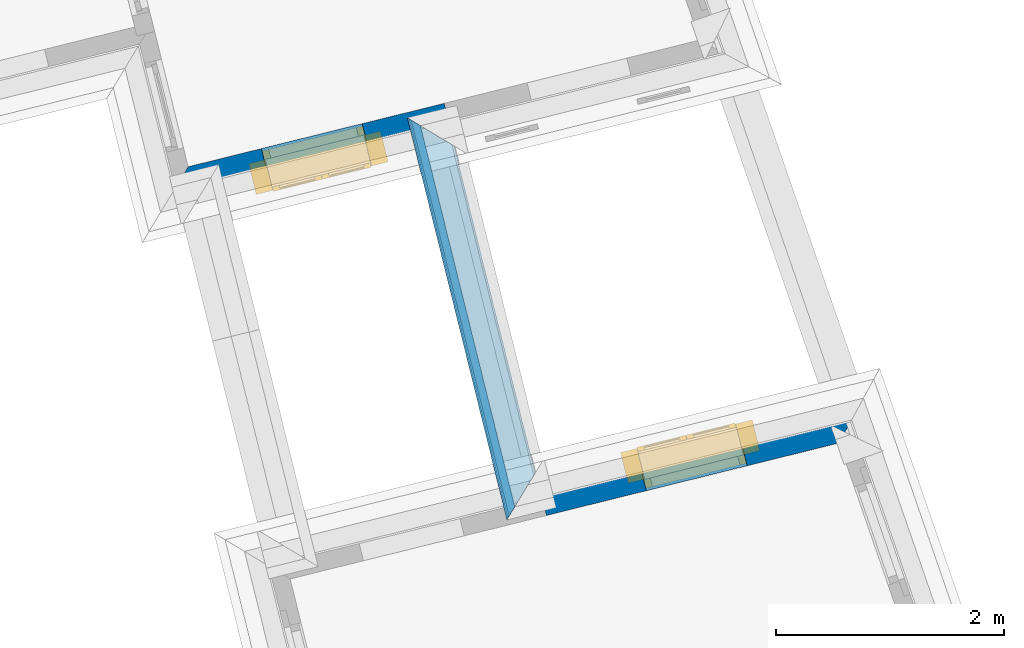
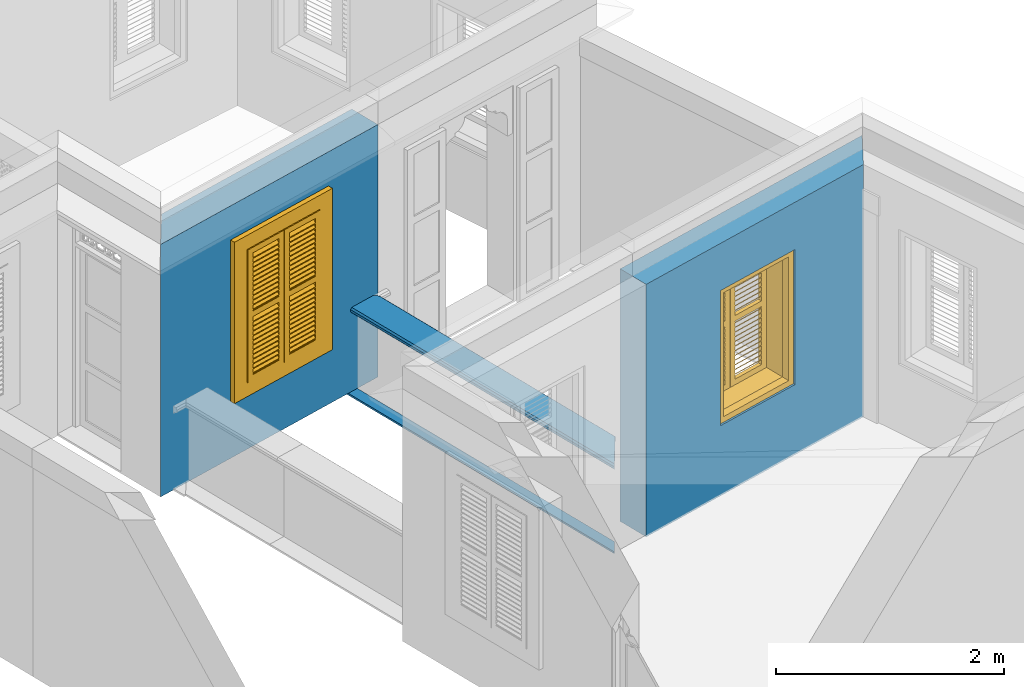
# One storey, part 5 of 15: 4 walls, 2 windows, 2 openings.
"""IFC4 building model written with IfcOpenShell, lengths in metres."""

from ifc_helpers import new_model, si_unit, frame, origin, origin_with_axes, place, context, subcontext, project, spatial, polyline, outline, extrude, clip, halfspace, faceted_brep, source, transform, mapped, material, layer, layer_set, layer_usage, material_profile, profile_set, profile_usage, type_object, type_shapes, element, fill, save


model = new_model("IFC4")

# Units and contexts
model_context = context("Model", 3, world=origin_with_axes())
body_context = subcontext(model_context, "Body", "Model", "MODEL_VIEW")
ifc_project = project(units=[si_unit("PLANEANGLEUNIT", "RADIAN"), si_unit("MASSUNIT", "GRAM", prefix="KILO"), si_unit("FORCEUNIT", "NEWTON", prefix="KILO"), si_unit("LENGTHUNIT", "METRE"), si_unit("AREAUNIT", "SQUARE_METRE"), si_unit("VOLUMEUNIT", "CUBIC_METRE")], contexts=[model_context, model_context])

# Site, building, storey
site_placement = place(None, origin_with_axes())
site = spatial("IfcSite", under=ifc_project, at=site_placement, Name="Site plot-5", CompositionType="ELEMENT")
building_placement = place(None, origin_with_axes())
building = spatial("IfcBuilding", under=site, at=building_placement, Name="Building plot-5", CompositionType="ELEMENT")
storey_placement = place(None, frame((0.0, 0.0, 3.45), z_axis=(0.0, 0.0, 1.0), x_axis=(1.0, 0.0, 0.0)))
storey = spatial("IfcBuildingStorey", under=building, at=storey_placement, Name="plot-5 1", CompositionType="ELEMENT", Elevation=3.45)

# Wall, opening, window
ifc_material = material(Name="Masonry")
ifc_layer = layer(ifc_material, 0.33, ventilated=False)
ifc_layer_set = layer_set([ifc_layer], Name="exterior_0.08_0.25")
ifc_layer_usage = layer_usage(ifc_layer_set, "AXIS2", "POSITIVE", -0.25)
wall_type_1 = type_object("IfcWallType", Name="exterior_0.08_0.25", PredefinedType="SOLIDWALL", material=ifc_layer_set)
wall_1_placement = place(storey_placement, frame((18.1389410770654, 27.4400168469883, 0.0), z_axis=(0.0, 0.0, 1.0), x_axis=(0.970711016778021, 0.240250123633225, 0.0)))
wall_1 = element("IfcWall", 1, at=wall_1_placement, inside=storey, type_object=wall_type_1, material=ifc_layer_usage, Name="exterior", context=body_context, shape_type="SweptSolid", body=[
    extrude(outline(polyline([(0.080000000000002, 0.0799999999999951), (-0.250000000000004, -0.250000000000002), (2.39219145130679, -0.250000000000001), (2.39219145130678, 0.0800000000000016), (0.080000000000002, 0.0799999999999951)])), origin_with_axes(), (0.0, 0.0, 1.0), 2.7),
])
opening_1_placement = place(wall_1_placement, frame((0.741095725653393, 0.0, 0.75)))
opening_1 = element("IfcOpeningElement", 2, at=opening_1_placement, cuts=wall_1, Name="My Opening", ObjectType="Opening", context=body_context, shape_type="SweptSolid", body=[
    extrude(outline(polyline([(0.0, -0.269999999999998), (0.909999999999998, -0.27), (0.910000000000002, 1.1), (3.77475828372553e-15, 1.1), (0.0, -0.269999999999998)])), origin_with_axes(), (0.0, 0.0, 1.0), 1.445),
])
window_type = type_object("IfcWindowType", Name="shuttered_shorter", PartitioningType="DOUBLE_PANEL_HORIZONTAL", PredefinedType="NOTDEFINED")
shared_shape = source(origin(), body_context, "Body", "Brep", [
    faceted_brep([(0.393, 0.0, 0.622), (0.074, 0.0, 0.622), (0.074, 0.0, 0.632), (0.393, 0.0, 0.632), (0.074, -0.04, 0.592), (0.393, -0.04, 0.592), (0.393, -0.04, 0.582), (0.074, -0.04, 0.582), (0.517, 0.0, 0.682), (0.836, 0.0, 0.682), (0.836, 0.0, 0.672), (0.517, 0.0, 0.672), (0.517, -0.04, 0.642), (0.836, -0.04, 0.642), (0.836, -0.04, 0.632), (0.517, -0.04, 0.632), (0.517, 0.0, 0.632), (0.836, 0.0, 0.632), (0.836, 0.0, 0.622), (0.517, 0.0, 0.622), (0.517, -0.04, 0.592), (0.836, -0.04, 0.592), (0.836, -0.04, 0.582), (0.517, -0.04, 0.582), (0.517, 0.0, 0.232), (0.836, 0.0, 0.232), (0.836, 0.0, 0.222), (0.517, 0.0, 0.222), (0.517, -0.04, 0.192), (0.836, -0.04, 0.192), (0.836, -0.04, 0.182), (0.517, -0.04, 0.182), (0.517, 0.0, 0.532), (0.836, 0.0, 0.532), (0.836, 0.0, 0.522), (0.517, 0.0, 0.522), (0.517, -0.04, 0.492), (0.836, -0.04, 0.492), (0.836, -0.04, 0.482), (0.517, -0.04, 0.482), (0.517, 0.0, 0.482), (0.836, 0.0, 0.482), (0.836, 0.0, 0.472), (0.517, 0.0, 0.472), (0.517, -0.04, 0.442), (0.836, -0.04, 0.442), (0.836, -0.04, 0.432), (0.517, -0.04, 0.432), (0.517, 0.0, 0.582), (0.836, 0.0, 0.582), (0.836, 0.0, 0.572), (0.517, 0.0, 0.572), (0.517, -0.04, 0.542), (0.836, -0.04, 0.542), (0.836, -0.04, 0.532), (0.517, -0.04, 0.532), (0.517, 0.0, 0.182), (0.836, 0.0, 0.182), (0.836, 0.0, 0.172), (0.517, 0.0, 0.172), (0.517, -0.04, 0.142), (0.836, -0.04, 0.142), (0.836, -0.04, 0.132), (0.517, -0.04, 0.132), (0.517, 0.0, 0.382), (0.836, 0.0, 0.382), (0.836, 0.0, 0.372), (0.517, 0.0, 0.372), (0.517, -0.04, 0.342), (0.836, -0.04, 0.342), (0.836, -0.04, 0.332), (0.517, -0.04, 0.332), (0.517, 0.0, 0.432), (0.836, 0.0, 0.432), (0.836, 0.0, 0.422), (0.517, 0.0, 0.422), (0.517, -0.04, 0.392), (0.836, -0.04, 0.392), (0.836, -0.04, 0.382), (0.517, -0.04, 0.382), (0.517, 0.0, 0.132), (0.836, 0.0, 0.132), (0.836, 0.0, 0.122), (0.517, 0.0, 0.122), (0.517, -0.04, 0.092), (0.836, -0.04, 0.092), (0.836, -0.04, 0.082), (0.517, -0.04, 0.082), (0.517, 0.0, 0.282), (0.836, 0.0, 0.282), (0.836, 0.0, 0.272), (0.517, 0.0, 0.272), (0.517, -0.04, 0.242), (0.836, -0.04, 0.242), (0.836, -0.04, 0.232), (0.517, -0.04, 0.232), (0.517, 0.0, 0.332), (0.836, 0.0, 0.332), (0.836, 0.0, 0.322), (0.517, 0.0, 0.322), (0.517, -0.04, 0.292), (0.836, -0.04, 0.292), (0.836, -0.04, 0.282), (0.517, -0.04, 0.282), (0.517, 0.0, 1.362667), (0.836, 0.0, 1.362667), (0.836, 0.0, 1.352667), (0.517, 0.0, 1.352667), (0.517, -0.04, 1.322667), (0.836, -0.04, 1.322667), (0.836, -0.04, 1.312667), (0.517, -0.04, 1.312667), (0.517, 0.0, 1.312667), (0.836, 0.0, 1.312667), (0.836, 0.0, 1.302667), (0.517, 0.0, 1.302667), (0.517, -0.04, 1.272667), (0.836, -0.04, 1.272667), (0.836, -0.04, 1.262667), (0.517, -0.04, 1.262667), (0.517, 0.0, 0.912667), (0.836, 0.0, 0.912667), (0.836, 0.0, 0.902667), (0.517, 0.0, 0.902667), (0.517, -0.04, 0.872667), (0.836, -0.04, 0.872667), (0.836, -0.04, 0.862667), (0.517, -0.04, 0.862667), (0.517, 0.0, 1.212667), (0.836, 0.0, 1.212667), (0.836, 0.0, 1.202667), (0.517, 0.0, 1.202667), (0.517, -0.04, 1.172667), (0.836, -0.04, 1.172667), (0.836, -0.04, 1.162667), (0.517, -0.04, 1.162667), (0.517, 0.0, 1.162667), (0.836, 0.0, 1.162667), (0.836, 0.0, 1.152667), (0.517, 0.0, 1.152667), (0.517, -0.04, 1.122667), (0.836, -0.04, 1.122667), (0.836, -0.04, 1.112667), (0.517, -0.04, 1.112667), (0.517, 0.0, 1.262667), (0.836, 0.0, 1.262667), (0.836, 0.0, 1.252667), (0.517, 0.0, 1.252667), (0.517, -0.04, 1.222667), (0.836, -0.04, 1.222667), (0.836, -0.04, 1.212667), (0.517, -0.04, 1.212667), (0.517, 0.0, 0.862667), (0.836, 0.0, 0.862667), (0.836, 0.0, 0.852667), (0.517, 0.0, 0.852667), (0.517, -0.04, 0.822667), (0.836, -0.04, 0.822667), (0.836, -0.04, 0.812667), (0.517, -0.04, 0.812667), (0.517, 0.0, 1.062667), (0.836, 0.0, 1.062667), (0.836, 0.0, 1.052667), (0.517, 0.0, 1.052667), (0.517, -0.04, 1.022667), (0.836, -0.04, 1.022667), (0.836, -0.04, 1.012667), (0.517, -0.04, 1.012667), (0.517, 0.0, 1.112667), (0.836, 0.0, 1.112667), (0.836, 0.0, 1.102667), (0.517, 0.0, 1.102667), (0.517, -0.04, 1.072667), (0.836, -0.04, 1.072667), (0.836, -0.04, 1.062667), (0.517, -0.04, 1.062667), (0.517, 0.0, 0.812667), (0.836, 0.0, 0.812667), (0.836, 0.0, 0.802667), (0.517, 0.0, 0.802667), (0.517, -0.04, 0.772667), (0.836, -0.04, 0.772667), (0.836, -0.04, 0.762667), (0.517, -0.04, 0.762667), (0.517, 0.0, 0.962667), (0.836, 0.0, 0.962667), (0.836, 0.0, 0.952667), (0.517, 0.0, 0.952667), (0.517, -0.04, 0.922667), (0.836, -0.04, 0.922667), (0.836, -0.04, 0.912667), (0.517, -0.04, 0.912667), (0.517, 0.0, 1.012667), (0.836, 0.0, 1.012667), (0.836, 0.0, 1.002667), (0.517, 0.0, 1.002667), (0.517, -0.04, 0.972667), (0.836, -0.04, 0.972667), (0.836, -0.04, 0.962667), (0.517, -0.04, 0.962667), (0.074, 0.0, 0.682), (0.393, 0.0, 0.682), (0.393, 0.0, 0.672), (0.074, 0.0, 0.672), (0.074, -0.04, 0.642), (0.393, -0.04, 0.642), (0.393, -0.04, 0.632), (0.074, -0.04, 0.632), (0.074, 0.0, 0.232), (0.393, 0.0, 0.232), (0.393, 0.0, 0.222), (0.074, 0.0, 0.222), (0.074, -0.04, 0.192), (0.393, -0.04, 0.192), (0.393, -0.04, 0.182), (0.074, -0.04, 0.182), (0.074, 0.0, 0.532), (0.393, 0.0, 0.532), (0.393, 0.0, 0.522), (0.074, 0.0, 0.522), (0.074, -0.04, 0.492), (0.393, -0.04, 0.492), (0.393, -0.04, 0.482), (0.074, -0.04, 0.482), (0.074, 0.0, 0.482), (0.393, 0.0, 0.482), (0.393, 0.0, 0.472), (0.074, 0.0, 0.472), (0.074, -0.04, 0.442), (0.393, -0.04, 0.442), (0.393, -0.04, 0.432), (0.074, -0.04, 0.432), (0.074, 0.0, 0.582), (0.393, 0.0, 0.582), (0.393, 0.0, 0.572), (0.074, 0.0, 0.572), (0.074, -0.04, 0.542), (0.393, -0.04, 0.542), (0.393, -0.04, 0.532), (0.074, -0.04, 0.532), (0.074, 0.0, 0.182), (0.393, 0.0, 0.182), (0.393, 0.0, 0.172), (0.074, 0.0, 0.172), (0.074, -0.04, 0.142), (0.393, -0.04, 0.142), (0.393, -0.04, 0.132), (0.074, -0.04, 0.132), (0.074, 0.0, 0.382), (0.393, 0.0, 0.382), (0.393, 0.0, 0.372), (0.074, 0.0, 0.372), (0.074, -0.04, 0.342), (0.393, -0.04, 0.342), (0.393, -0.04, 0.332), (0.074, -0.04, 0.332), (0.074, 0.0, 0.432), (0.393, 0.0, 0.432), (0.393, 0.0, 0.422), (0.074, 0.0, 0.422), (0.074, -0.04, 0.392), (0.393, -0.04, 0.392), (0.393, -0.04, 0.382), (0.074, -0.04, 0.382), (0.074, 0.0, 0.132), (0.393, 0.0, 0.132), (0.393, 0.0, 0.122), (0.074, 0.0, 0.122), (0.074, -0.04, 0.092), (0.393, -0.04, 0.092), (0.393, -0.04, 0.082), (0.074, -0.04, 0.082), (0.074, 0.0, 0.282), (0.393, 0.0, 0.282), (0.393, 0.0, 0.272), (0.074, 0.0, 0.272), (0.074, -0.04, 0.242), (0.393, -0.04, 0.242), (0.393, -0.04, 0.232), (0.074, -0.04, 0.232), (0.074, 0.0, 0.332), (0.393, 0.0, 0.332), (0.393, 0.0, 0.322), (0.074, 0.0, 0.322), (0.074, -0.04, 0.292), (0.393, -0.04, 0.292), (0.393, -0.04, 0.282), (0.074, -0.04, 0.282), (0.074, 0.0, 1.362667), (0.393, 0.0, 1.362667), (0.393, 0.0, 1.352667), (0.074, 0.0, 1.352667), (0.074, -0.04, 1.322667), (0.393, -0.04, 1.322667), (0.393, -0.04, 1.312667), (0.074, -0.04, 1.312667), (0.074, 0.0, 1.312667), (0.393, 0.0, 1.312667), (0.393, 0.0, 1.302667), (0.074, 0.0, 1.302667), (0.074, -0.04, 1.272667), (0.393, -0.04, 1.272667), (0.393, -0.04, 1.262667), (0.074, -0.04, 1.262667), (0.074, 0.0, 0.912667), (0.393, 0.0, 0.912667), (0.393, 0.0, 0.902667), (0.074, 0.0, 0.902667), (0.074, -0.04, 0.872667), (0.393, -0.04, 0.872667), (0.393, -0.04, 0.862667), (0.074, -0.04, 0.862667), (0.074, 0.0, 1.212667), (0.393, 0.0, 1.212667), (0.393, 0.0, 1.202667), (0.074, 0.0, 1.202667), (0.074, -0.04, 1.172667), (0.393, -0.04, 1.172667), (0.393, -0.04, 1.162667), (0.074, -0.04, 1.162667), (0.074, 0.0, 1.162667), (0.393, 0.0, 1.162667), (0.393, 0.0, 1.152667), (0.074, 0.0, 1.152667), (0.074, -0.04, 1.122667), (0.393, -0.04, 1.122667), (0.393, -0.04, 1.112667), (0.074, -0.04, 1.112667), (0.074, 0.0, 1.262667), (0.393, 0.0, 1.262667), (0.393, 0.0, 1.252667), (0.074, 0.0, 1.252667), (0.074, -0.04, 1.222667), (0.393, -0.04, 1.222667), (0.393, -0.04, 1.212667), (0.074, -0.04, 1.212667), (0.074, 0.0, 0.862667), (0.393, 0.0, 0.862667), (0.393, 0.0, 0.852667), (0.074, 0.0, 0.852667), (0.074, -0.04, 0.822667), (0.393, -0.04, 0.822667), (0.393, -0.04, 0.812667), (0.074, -0.04, 0.812667), (0.074, 0.0, 1.062667), (0.393, 0.0, 1.062667), (0.393, 0.0, 1.052667), (0.074, 0.0, 1.052667), (0.074, -0.04, 1.022667), (0.393, -0.04, 1.022667), (0.393, -0.04, 1.012667), (0.074, -0.04, 1.012667), (0.074, 0.0, 1.112667), (0.393, 0.0, 1.112667), (0.393, 0.0, 1.102667), (0.074, 0.0, 1.102667), (0.074, -0.04, 1.072667), (0.393, -0.04, 1.072667), (0.393, -0.04, 1.062667), (0.074, -0.04, 1.062667), (0.074, 0.0, 0.812667), (0.393, 0.0, 0.812667), (0.393, 0.0, 0.802667), (0.074, 0.0, 0.802667), (0.074, -0.04, 0.772667), (0.393, -0.04, 0.772667), (0.393, -0.04, 0.762667), (0.074, -0.04, 0.762667), (0.074, 0.0, 0.962667), (0.393, 0.0, 0.962667), (0.393, 0.0, 0.952667), (0.074, 0.0, 0.952667), (0.074, -0.04, 0.922667), (0.393, -0.04, 0.922667), (0.393, -0.04, 0.912667), (0.074, -0.04, 0.912667), (0.074, 0.0, 1.012667), (0.393, 0.0, 1.012667), (0.393, 0.0, 1.002667), (0.074, 0.0, 1.002667), (0.074, -0.04, 0.972667), (0.393, -0.04, 0.972667), (0.393, -0.04, 0.962667), (0.074, -0.04, 0.962667), (0.517, -0.04, 0.072), (0.457, -0.04, 0.012), (0.896, -0.04, 0.012), (0.836, -0.04, 0.072), (0.457, -0.04, 0.692667), (0.517, -0.04, 0.692667), (0.457, 0.0, 0.012), (0.896, 0.0, 0.012), (0.836, -0.04, 0.692667), (0.896, -0.04, 0.692667), (0.836, 0.0, 0.072), (0.517, 0.0, 0.072), (0.457, 0.0, 0.692667), (0.517, 0.0, 0.692667), (0.517, -0.04, 0.752666), (0.457, -0.04, 0.752666), (0.896, 0.0, 0.692667), (0.836, 0.0, 0.692667), (0.836, -0.04, 0.752666), (0.896, -0.04, 0.752666), (0.457, 0.0, 0.752666), (0.457, -0.04, 1.433333), (0.517, -0.04, 1.373333), (0.896, 0.0, 0.752666), (0.836, -0.04, 1.373333), (0.896, -0.04, 1.433333), (0.457, 0.0, 1.433333), (0.517, 0.0, 0.752666), (0.836, 0.0, 0.752666), (0.517, 0.0, 1.373333), (0.896, 0.0, 1.433333), (0.836, 0.0, 1.373333), (0.074, -0.04, 0.072), (0.014, -0.04, 0.012), (0.453, -0.04, 0.012), (0.393, -0.04, 0.072), (0.014, -0.04, 0.692667), (0.074, -0.04, 0.692667), (0.014, 0.0, 0.012), (0.453, 0.0, 0.012), (0.393, -0.04, 0.692667), (0.453, -0.04, 0.692667), (0.393, 0.0, 0.072), (0.074, 0.0, 0.072), (0.014, 0.0, 0.692667), (0.074, 0.0, 0.692667), (0.074, -0.04, 0.752666), (0.014, -0.04, 0.752666), (0.453, 0.0, 0.692667), (0.393, 0.0, 0.692667), (0.393, -0.04, 0.752666), (0.453, -0.04, 0.752666), (0.014, 0.0, 0.752666), (0.014, -0.04, 1.433333), (0.074, -0.04, 1.373333), (0.453, 0.0, 0.752666), (0.393, -0.04, 1.373333), (0.453, -0.04, 1.433333), (0.014, 0.0, 1.433333), (0.074, 0.0, 0.752666), (0.393, 0.0, 0.752666), (0.074, 0.0, 1.373333), (0.453, 0.0, 1.433333), (0.393, 0.0, 1.373333), (0.0, 0.33, 1.445), (0.91, 0.33, 1.445), (0.85, 0.33, 1.385), (0.06, 0.33, 1.385), (0.91, 0.25, 1.445), (0.0, 0.25, 1.445), (0.91, 0.25, 1.445), (0.85, 0.33, 0.06), (0.91, 0.33, 0.0), (0.85, 0.25, 1.385), (0.06, 0.25, 1.385), (0.0, 0.33, 0.0), (0.06, 0.33, 0.06), (0.0, 0.25, 0.0), (0.91, 0.25, 0.0), (0.85, 0.25, 0.06), (0.06, 0.25, 0.06), (1.05, 0.25, 1.585), (-0.14, 0.25, 1.585), (-0.14, -0.03, 1.585), (1.05, -0.03, 1.585), (0.9, -0.03, 1.435), (0.01, -0.03, 1.435), (0.01, 0.25, 1.435), (0.9, 0.25, 1.435), (0.9, 0.25, 0.01), (0.9, -0.03, 0.01), (1.05, -0.03, -0.14), (1.05, 0.25, -0.14), (0.01, -0.03, 0.01), (0.01, 0.25, 0.01), (-0.14, -0.03, -0.14), (-0.14, 0.25, -0.14)], [[[0, 1, 2, 3]], [[4, 5, 3, 2]], [[5, 6, 0, 3]], [[1, 0, 6, 7]], [[2, 1, 7, 4]], [[5, 4, 7, 6]], [[8, 9, 10, 11]], [[12, 13, 9, 8]], [[13, 14, 10, 9]], [[14, 15, 11, 10]], [[15, 12, 8, 11]], [[13, 12, 15, 14]], [[16, 17, 18, 19]], [[20, 21, 17, 16]], [[21, 22, 18, 17]], [[22, 23, 19, 18]], [[23, 20, 16, 19]], [[21, 20, 23, 22]], [[24, 25, 26, 27]], [[28, 29, 25, 24]], [[29, 30, 26, 25]], [[30, 31, 27, 26]], [[31, 28, 24, 27]], [[29, 28, 31, 30]], [[32, 33, 34, 35]], [[36, 37, 33, 32]], [[37, 38, 34, 33]], [[38, 39, 35, 34]], [[39, 36, 32, 35]], [[37, 36, 39, 38]], [[40, 41, 42, 43]], [[44, 45, 41, 40]], [[45, 46, 42, 41]], [[46, 47, 43, 42]], [[47, 44, 40, 43]], [[45, 44, 47, 46]], [[48, 49, 50, 51]], [[52, 53, 49, 48]], [[53, 54, 50, 49]], [[54, 55, 51, 50]], [[55, 52, 48, 51]], [[53, 52, 55, 54]], [[56, 57, 58, 59]], [[60, 61, 57, 56]], [[61, 62, 58, 57]], [[62, 63, 59, 58]], [[63, 60, 56, 59]], [[61, 60, 63, 62]], [[64, 65, 66, 67]], [[68, 69, 65, 64]], [[69, 70, 66, 65]], [[70, 71, 67, 66]], [[71, 68, 64, 67]], [[69, 68, 71, 70]], [[72, 73, 74, 75]], [[76, 77, 73, 72]], [[77, 78, 74, 73]], [[78, 79, 75, 74]], [[79, 76, 72, 75]], [[77, 76, 79, 78]], [[80, 81, 82, 83]], [[84, 85, 81, 80]], [[85, 86, 82, 81]], [[86, 87, 83, 82]], [[87, 84, 80, 83]], [[85, 84, 87, 86]], [[88, 89, 90, 91]], [[92, 93, 89, 88]], [[93, 94, 90, 89]], [[94, 95, 91, 90]], [[95, 92, 88, 91]], [[93, 92, 95, 94]], [[96, 97, 98, 99]], [[100, 101, 97, 96]], [[101, 102, 98, 97]], [[102, 103, 99, 98]], [[103, 100, 96, 99]], [[101, 100, 103, 102]], [[104, 105, 106, 107]], [[108, 109, 105, 104]], [[109, 110, 106, 105]], [[110, 111, 107, 106]], [[111, 108, 104, 107]], [[109, 108, 111, 110]], [[112, 113, 114, 115]], [[116, 117, 113, 112]], [[117, 118, 114, 113]], [[118, 119, 115, 114]], [[119, 116, 112, 115]], [[117, 116, 119, 118]], [[120, 121, 122, 123]], [[124, 125, 121, 120]], [[125, 126, 122, 121]], [[126, 127, 123, 122]], [[127, 124, 120, 123]], [[125, 124, 127, 126]], [[128, 129, 130, 131]], [[132, 133, 129, 128]], [[133, 134, 130, 129]], [[134, 135, 131, 130]], [[135, 132, 128, 131]], [[133, 132, 135, 134]], [[136, 137, 138, 139]], [[140, 141, 137, 136]], [[141, 142, 138, 137]], [[142, 143, 139, 138]], [[139, 143, 140, 136]], [[141, 140, 143, 142]], [[144, 145, 146, 147]], [[148, 149, 145, 144]], [[149, 150, 146, 145]], [[150, 151, 147, 146]], [[151, 148, 144, 147]], [[149, 148, 151, 150]], [[152, 153, 154, 155]], [[156, 157, 153, 152]], [[157, 158, 154, 153]], [[158, 159, 155, 154]], [[159, 156, 152, 155]], [[157, 156, 159, 158]], [[160, 161, 162, 163]], [[164, 165, 161, 160]], [[165, 166, 162, 161]], [[166, 167, 163, 162]], [[167, 164, 160, 163]], [[165, 164, 167, 166]], [[168, 169, 170, 171]], [[172, 173, 169, 168]], [[173, 174, 170, 169]], [[174, 175, 171, 170]], [[175, 172, 168, 171]], [[173, 172, 175, 174]], [[176, 177, 178, 179]], [[180, 181, 177, 176]], [[181, 182, 178, 177]], [[182, 183, 179, 178]], [[183, 180, 176, 179]], [[181, 180, 183, 182]], [[184, 185, 186, 187]], [[188, 189, 185, 184]], [[189, 190, 186, 185]], [[190, 191, 187, 186]], [[191, 188, 184, 187]], [[189, 188, 191, 190]], [[192, 193, 194, 195]], [[196, 197, 193, 192]], [[197, 198, 194, 193]], [[198, 199, 195, 194]], [[199, 196, 192, 195]], [[197, 196, 199, 198]], [[200, 201, 202, 203]], [[204, 205, 201, 200]], [[205, 206, 202, 201]], [[206, 207, 203, 202]], [[207, 204, 200, 203]], [[205, 204, 207, 206]], [[208, 209, 210, 211]], [[212, 213, 209, 208]], [[213, 214, 210, 209]], [[214, 215, 211, 210]], [[215, 212, 208, 211]], [[213, 212, 215, 214]], [[216, 217, 218, 219]], [[220, 221, 217, 216]], [[221, 222, 218, 217]], [[222, 223, 219, 218]], [[223, 220, 216, 219]], [[221, 220, 223, 222]], [[224, 225, 226, 227]], [[228, 229, 225, 224]], [[229, 230, 226, 225]], [[230, 231, 227, 226]], [[231, 228, 224, 227]], [[229, 228, 231, 230]], [[232, 233, 234, 235]], [[236, 237, 233, 232]], [[237, 238, 234, 233]], [[238, 239, 235, 234]], [[239, 236, 232, 235]], [[237, 236, 239, 238]], [[240, 241, 242, 243]], [[244, 245, 241, 240]], [[245, 246, 242, 241]], [[246, 247, 243, 242]], [[247, 244, 240, 243]], [[245, 244, 247, 246]], [[248, 249, 250, 251]], [[252, 253, 249, 248]], [[253, 254, 250, 249]], [[254, 255, 251, 250]], [[255, 252, 248, 251]], [[253, 252, 255, 254]], [[256, 257, 258, 259]], [[260, 261, 257, 256]], [[261, 262, 258, 257]], [[262, 263, 259, 258]], [[263, 260, 256, 259]], [[261, 260, 263, 262]], [[264, 265, 266, 267]], [[268, 269, 265, 264]], [[269, 270, 266, 265]], [[270, 271, 267, 266]], [[271, 268, 264, 267]], [[269, 268, 271, 270]], [[272, 273, 274, 275]], [[276, 277, 273, 272]], [[277, 278, 274, 273]], [[278, 279, 275, 274]], [[279, 276, 272, 275]], [[277, 276, 279, 278]], [[280, 281, 282, 283]], [[284, 285, 281, 280]], [[285, 286, 282, 281]], [[286, 287, 283, 282]], [[287, 284, 280, 283]], [[285, 284, 287, 286]], [[288, 289, 290, 291]], [[292, 293, 289, 288]], [[293, 294, 290, 289]], [[294, 295, 291, 290]], [[295, 292, 288, 291]], [[293, 292, 295, 294]], [[296, 297, 298, 299]], [[300, 301, 297, 296]], [[301, 302, 298, 297]], [[302, 303, 299, 298]], [[303, 300, 296, 299]], [[301, 300, 303, 302]], [[304, 305, 306, 307]], [[308, 309, 305, 304]], [[309, 310, 306, 305]], [[310, 311, 307, 306]], [[311, 308, 304, 307]], [[309, 308, 311, 310]], [[312, 313, 314, 315]], [[316, 317, 313, 312]], [[317, 318, 314, 313]], [[318, 319, 315, 314]], [[319, 316, 312, 315]], [[317, 316, 319, 318]], [[320, 321, 322, 323]], [[324, 325, 321, 320]], [[325, 326, 322, 321]], [[326, 327, 323, 322]], [[327, 324, 320, 323]], [[325, 324, 327, 326]], [[328, 329, 330, 331]], [[332, 333, 329, 328]], [[333, 334, 330, 329]], [[334, 335, 331, 330]], [[335, 332, 328, 331]], [[333, 332, 335, 334]], [[336, 337, 338, 339]], [[340, 341, 337, 336]], [[341, 342, 338, 337]], [[342, 343, 339, 338]], [[343, 340, 336, 339]], [[341, 340, 343, 342]], [[344, 345, 346, 347]], [[348, 349, 345, 344]], [[349, 350, 346, 345]], [[350, 351, 347, 346]], [[351, 348, 344, 347]], [[349, 348, 351, 350]], [[352, 353, 354, 355]], [[356, 357, 353, 352]], [[357, 358, 354, 353]], [[358, 359, 355, 354]], [[359, 356, 352, 355]], [[357, 356, 359, 358]], [[360, 361, 362, 363]], [[364, 365, 361, 360]], [[365, 366, 362, 361]], [[366, 367, 363, 362]], [[367, 364, 360, 363]], [[365, 364, 367, 366]], [[368, 369, 370, 371]], [[372, 373, 369, 368]], [[373, 374, 370, 369]], [[374, 375, 371, 370]], [[375, 372, 368, 371]], [[373, 372, 375, 374]], [[376, 377, 378, 379]], [[380, 381, 377, 376]], [[381, 382, 378, 377]], [[382, 383, 379, 378]], [[383, 380, 376, 379]], [[381, 380, 383, 382]], [[384, 385, 386, 387]], [[388, 385, 384, 389]], [[390, 391, 386, 385]], [[392, 387, 386, 393]], [[384, 387, 394, 395]], [[390, 385, 388, 396]], [[389, 384, 395, 397]], [[389, 398, 399, 388]], [[390, 395, 394, 391]], [[400, 393, 386, 391]], [[387, 392, 401, 394]], [[402, 392, 393, 403]], [[396, 388, 399, 404]], [[390, 396, 397, 395]], [[392, 389, 397, 401]], [[398, 389, 392, 402]], [[405, 399, 398, 406]], [[394, 401, 400, 391]], [[407, 403, 393, 400]], [[408, 402, 403, 409]], [[404, 399, 405, 410]], [[411, 397, 396, 404]], [[397, 411, 412, 401]], [[398, 402, 412, 411]], [[406, 398, 411, 413]], [[405, 406, 408, 409]], [[401, 412, 407, 400]], [[414, 409, 403, 407]], [[402, 408, 415, 412]], [[405, 409, 414, 410]], [[404, 410, 413, 411]], [[408, 406, 413, 415]], [[412, 415, 414, 407]], [[413, 410, 414, 415]], [[416, 417, 418, 419]], [[420, 417, 416, 421]], [[422, 423, 418, 417]], [[424, 419, 418, 425]], [[416, 419, 426, 427]], [[422, 417, 420, 428]], [[421, 416, 427, 429]], [[421, 430, 431, 420]], [[422, 427, 426, 423]], [[432, 425, 418, 423]], [[419, 424, 433, 426]], [[434, 424, 425, 435]], [[428, 420, 431, 436]], [[422, 428, 429, 427]], [[424, 421, 429, 433]], [[430, 421, 424, 434]], [[437, 431, 430, 438]], [[426, 433, 432, 423]], [[439, 435, 425, 432]], [[440, 434, 435, 441]], [[436, 431, 437, 442]], [[443, 429, 428, 436]], [[429, 443, 444, 433]], [[430, 434, 444, 443]], [[438, 430, 443, 445]], [[437, 438, 440, 441]], [[433, 444, 439, 432]], [[446, 441, 435, 439]], [[434, 440, 447, 444]], [[437, 441, 446, 442]], [[436, 442, 445, 443]], [[440, 438, 445, 447]], [[444, 447, 446, 439]], [[445, 442, 446, 447]], [[448, 449, 450, 451]], [[452, 449, 448]], [[448, 453, 454]], [[448, 454, 452]], [[455, 450, 449, 456]], [[451, 450, 457, 458]], [[459, 448, 451, 460]], [[448, 459, 461, 453]], [[454, 453, 458, 457]], [[462, 452, 454]], [[454, 457, 463]], [[454, 463, 462]], [[456, 449, 452, 462]], [[450, 455, 463, 457]], [[456, 459, 460, 455]], [[460, 451, 458, 464]], [[459, 456, 462, 461]], [[464, 458, 453, 461]], [[461, 462, 463, 464]], [[455, 460, 464, 463]], [[465, 466, 467, 468]], [[469, 470, 471, 472]], [[473, 474, 469, 472]], [[465, 468, 475, 476]], [[470, 477, 478, 471]], [[474, 473, 478, 477]], [[474, 477, 479, 475]], [[470, 467, 479, 477]], [[470, 469, 468, 467]], [[474, 475, 468, 469]], [[471, 478, 480, 466]], [[473, 472, 465, 476]], [[473, 476, 480, 478]], [[466, 465, 472, 471]], [[480, 476, 475, 479]], [[480, 479, 467, 466]]]),
])
type_shapes(window_type, [shared_shape])
window_1_placement = place(storey_placement, frame((18.9231983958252, 27.3559732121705, 0.75), z_axis=(0.0, 0.0, 1.0), x_axis=(0.883347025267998, 0.218627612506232, 0.0)))
window_1 = element("IfcWindow", 3, at=window_1_placement, inside=storey, type_object=window_type, Name="circulation outside window", OverallHeight=1.445, OverallWidth=0.91, context=body_context, shape_type="MappedRepresentation", body=[
    mapped(shared_shape, transform((0.0, 0.0, 0.0), scale=1.0)),
])
fill(opening_1, window_1)

wall_2_placement = place(storey_placement, frame((23.9506425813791, 25.2121915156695, 0.0), z_axis=(0.0, 0.0, 1.0), x_axis=(-0.970711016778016, -0.240250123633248, 0.0)))
wall_2 = element("IfcWall", 4, at=wall_2_placement, inside=storey, type_object=wall_type_1, material=ifc_layer_usage, Name="exterior", context=body_context, shape_type="SweptSolid", body=[
    extrude(outline(polyline([(0.0730912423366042, 0.0800000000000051), (-0.228410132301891, -0.250000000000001), (2.71405591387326, -0.25), (2.71405591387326, 0.0800000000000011), (0.0730912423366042, 0.0800000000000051)])), origin_with_axes(), (0.0, 0.0, 1.0), 2.7),
])
opening_2_placement = place(wall_2_placement, frame((0.90202795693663, 0.0, 0.75)))
opening_2 = element("IfcOpeningElement", 5, at=opening_2_placement, cuts=wall_2, Name="My Opening", ObjectType="Opening", context=body_context, shape_type="SweptSolid", body=[
    extrude(outline(polyline([(0.0, -0.27), (0.909999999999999, -0.270000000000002), (0.91, 1.1), (-1.11022302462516e-16, 1.1), (0.0, -0.27)])), origin_with_axes(), (0.0, 0.0, 1.0), 1.445),
])
window_2_placement = place(storey_placement, frame((23.010166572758, 25.2575711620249, 0.75), z_axis=(0.0, 0.0, 1.0), x_axis=(-0.883347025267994, -0.218627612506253, 0.0)))
window_2 = element("IfcWindow", 6, at=window_2_placement, inside=storey, type_object=window_type, Name="bedroom sahn window", OverallHeight=1.445, OverallWidth=0.91, context=body_context, shape_type="MappedRepresentation", body=[
    mapped(shared_shape, transform((0.0, 0.0, 0.0), scale=1.0)),
])
fill(opening_2, window_2)

# Walls
ifc_material_profile_1 = material_profile(None, outline(polyline([(0.265, 0.795), (0.268, 0.807), (0.274, 0.816), (0.283, 0.822), (0.295, 0.825), (0.295, 0.84), (0.305, 0.84), (0.317, 0.842), (0.326, 0.849), (0.333, 0.858), (0.335, 0.87), (0.333, 0.882), (0.326, 0.891), (0.317, 0.898), (0.305, 0.9), (0.035, 0.9), (0.023, 0.898), (0.014, 0.891), (0.007, 0.882), (0.005, 0.87), (0.007, 0.858), (0.014, 0.849), (0.023, 0.842), (0.035, 0.84), (0.045, 0.84), (0.045, 0.825), (0.057, 0.822), (0.066, 0.816), (0.072, 0.807), (0.075, 0.795), (0.265, 0.795)])))
ifc_profile_set_1 = profile_set([ifc_material_profile_1])
ifc_profile_usage_1 = profile_usage(ifc_profile_set_1)
wall_type_2 = type_object("IfcWallType", Name="parapet internal_1", PredefinedType="PARAPET", material=ifc_profile_set_1)
wall_3_placement = place(storey_placement, frame((21.4818511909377, 23.8903486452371, 0.0), z_axis=(-0.24025012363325, 0.970711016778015, 0.0), x_axis=(-0.970711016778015, -0.24025012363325, 0.0)))
element("IfcWall", 7, at=wall_3_placement, inside=storey, type_object=wall_type_2, material=ifc_profile_usage_1, Name="parapet internal_1", context=body_context, shape_type="Clipping", body=[
    clip(clip(extrude(outline(polyline([(0.265, 0.795), (0.268, 0.807), (0.274, 0.816), (0.283, 0.822), (0.295, 0.825), (0.295, 0.84), (0.305, 0.84), (0.317, 0.842), (0.326, 0.849), (0.333, 0.858), (0.335, 0.87), (0.333, 0.882), (0.326, 0.891), (0.317, 0.898), (0.305, 0.9), (0.035, 0.9), (0.023, 0.898), (0.014, 0.891), (0.007, 0.882), (0.005, 0.87), (0.007, 0.858), (0.014, 0.849), (0.023, 0.842), (0.035, 0.84), (0.045, 0.84), (0.045, 0.825), (0.057, 0.822), (0.066, 0.816), (0.072, 0.807), (0.075, 0.795), (0.265, 0.795)])), origin_with_axes(), (0.0, 0.0, 1.0), 4.93883659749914), halfspace(frame((0.0, 0.0, 3.93883659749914), z_axis=(0.707106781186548, 0.0, -0.707106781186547), x_axis=(0.0, 1.0, 0.0)), True)), halfspace(frame((0.0, 0.0, 1.0), z_axis=(-0.707106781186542, 0.0, -0.707106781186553), x_axis=(0.0, 1.0, 0.0)), False)),
])
ifc_material_profile_2 = material_profile(None, outline(polyline([(0.25, -0.1), (0.265, -0.1), (0.265, -0.085), (0.278, -0.084), (0.289, -0.081), (0.301, -0.074), (0.309, -0.065), (0.315, -0.055), (0.324, -0.044), (0.334, -0.038), (0.345, -0.035), (0.345, -0.015), (0.25, 0.0), (0.25, -0.1)])))
ifc_profile_set_2 = profile_set([ifc_material_profile_2])
ifc_profile_usage_2 = profile_usage(ifc_profile_set_2)
wall_type_3 = type_object("IfcWallType", Name="parapet internal_2", PredefinedType="PARAPET", material=ifc_profile_set_2)
wall_4_placement = place(storey_placement, frame((21.4818511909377, 23.8903486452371, 0.0), z_axis=(-0.24025012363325, 0.970711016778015, 0.0), x_axis=(-0.970711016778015, -0.24025012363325, 0.0)))
element("IfcWall", 8, at=wall_4_placement, inside=storey, type_object=wall_type_3, material=ifc_profile_usage_2, Name="parapet internal_2", context=body_context, shape_type="Clipping", body=[
    clip(clip(extrude(outline(polyline([(0.25, -0.1), (0.265, -0.1), (0.265, -0.085), (0.278, -0.084), (0.289, -0.081), (0.301, -0.074), (0.309, -0.065), (0.315, -0.055), (0.324, -0.044), (0.334, -0.038), (0.345, -0.035), (0.345, -0.015), (0.25, 0.0), (0.25, -0.1)])), origin_with_axes(), (0.0, 0.0, 1.0), 4.93883659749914), halfspace(frame((0.0, 0.0, 3.93883659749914), z_axis=(0.707106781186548, 0.0, -0.707106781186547), x_axis=(0.0, 1.0, 0.0)), True)), halfspace(frame((0.0, 0.0, 1.0), z_axis=(-0.707106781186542, 0.0, -0.707106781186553), x_axis=(0.0, 1.0, 0.0)), False)),
])

save(model, "model.ifc")
